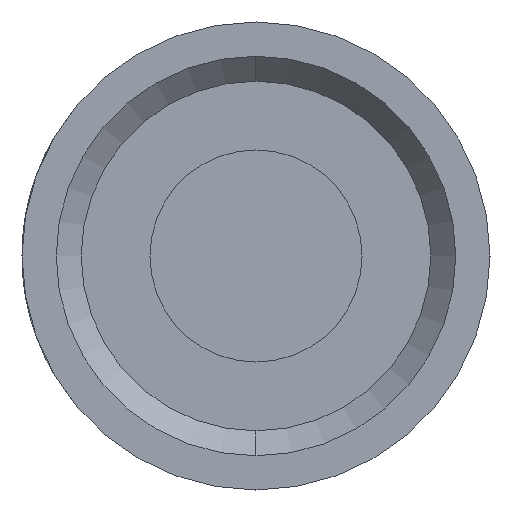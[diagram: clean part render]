
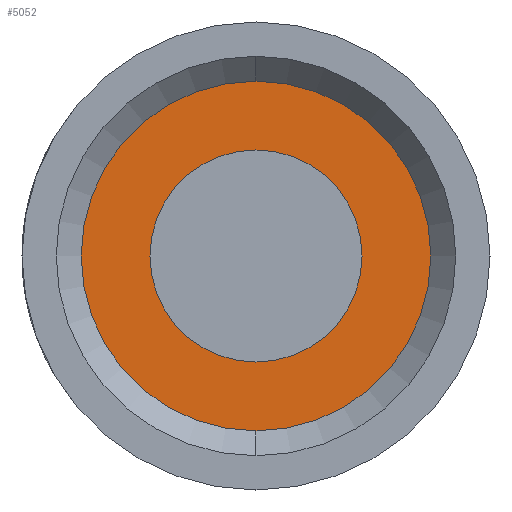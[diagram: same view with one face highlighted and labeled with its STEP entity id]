
A CAD part, left-side view. The second image highlights one B-rep face of the part: STEP entity #5052.
In plain terms, the highlighted planar face has unit normal (-1, 0, 0).
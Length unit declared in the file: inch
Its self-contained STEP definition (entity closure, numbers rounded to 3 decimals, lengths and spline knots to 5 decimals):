
#205 = ORIENTED_EDGE ( 'NONE', *, *, #10903, .F. ) ;
#1022 = EDGE_LOOP ( 'NONE', ( #2626, #6487 ) ) ;
#1437 = AXIS2_PLACEMENT_3D ( 'NONE', #8715, #10873, #2243 ) ;
#1916 = EDGE_CURVE ( 'NONE', #5363, #3442, #4844, .T. ) ;
#2231 = CIRCLE ( 'NONE', #1437, 0.04245 ) ;
#2243 = DIRECTION ( 'NONE',  ( 0., 0., 1. ) ) ;
#2534 = FACE_OUTER_BOUND ( 'NONE', #1022, .T. ) ;
#2626 = ORIENTED_EDGE ( 'NONE', *, *, #1916, .T. ) ;
#2631 = CARTESIAN_POINT ( 'NONE',  ( -0.465, 0.07, 0. ) ) ;
#2664 = DIRECTION ( 'NONE',  ( -1., 0., 0. ) ) ;
#2787 = DIRECTION ( 'NONE',  ( 0., 0., 1. ) ) ;
#3442 = VERTEX_POINT ( 'NONE', #10090 ) ;
#3499 = VERTEX_POINT ( 'NONE', #5950 ) ;
#3527 = AXIS2_PLACEMENT_3D ( 'NONE', #8065, #2664, #9084 ) ;
#4106 = EDGE_CURVE ( 'NONE', #3442, #5363, #8755, .T. ) ;
#4756 = CARTESIAN_POINT ( 'NONE',  ( -0.465, 0., 0. ) ) ;
#4844 = CIRCLE ( 'NONE', #8172, 0.07 ) ;
#5022 = EDGE_LOOP ( 'NONE', ( #205, #5232 ) ) ;
#5052 = ADVANCED_FACE ( 'NONE', ( #12650, #2534 ), #5723, .F. ) ;
#5232 = ORIENTED_EDGE ( 'NONE', *, *, #8747, .F. ) ;
#5363 = VERTEX_POINT ( 'NONE', #13736 ) ;
#5611 = CIRCLE ( 'NONE', #5904, 0.04245 ) ;
#5723 = PLANE ( 'NONE',  #13291 ) ;
#5767 = DIRECTION ( 'NONE',  ( 0., 0., -1. ) ) ;
#5904 = AXIS2_PLACEMENT_3D ( 'NONE', #4756, #12195, #2787 ) ;
#5950 = CARTESIAN_POINT ( 'NONE',  ( -0.465, 0., 0.04245 ) ) ;
#6487 = ORIENTED_EDGE ( 'NONE', *, *, #4106, .T. ) ;
#6790 = DIRECTION ( 'NONE',  ( 1., 0., 0. ) ) ;
#6937 = DIRECTION ( 'NONE',  ( 0., 0., 1. ) ) ;
#8065 = CARTESIAN_POINT ( 'NONE',  ( -0.465, 0., 0. ) ) ;
#8172 = AXIS2_PLACEMENT_3D ( 'NONE', #11202, #11288, #6937 ) ;
#8715 = CARTESIAN_POINT ( 'NONE',  ( -0.465, 0., 0. ) ) ;
#8747 = EDGE_CURVE ( 'NONE', #13509, #3499, #2231, .T. ) ;
#8755 = CIRCLE ( 'NONE', #3527, 0.07 ) ;
#9084 = DIRECTION ( 'NONE',  ( 0., 0., 1. ) ) ;
#10090 = CARTESIAN_POINT ( 'NONE',  ( -0.465, 0., -0.07 ) ) ;
#10873 = DIRECTION ( 'NONE',  ( -1., 0., 0. ) ) ;
#10903 = EDGE_CURVE ( 'NONE', #3499, #13509, #5611, .T. ) ;
#11202 = CARTESIAN_POINT ( 'NONE',  ( -0.465, 0., 0. ) ) ;
#11288 = DIRECTION ( 'NONE',  ( -1., 0., 0. ) ) ;
#11579 = CARTESIAN_POINT ( 'NONE',  ( -0.465, 0., -0.04245 ) ) ;
#12195 = DIRECTION ( 'NONE',  ( -1., 0., 0. ) ) ;
#12650 = FACE_BOUND ( 'NONE', #5022, .T. ) ;
#13291 = AXIS2_PLACEMENT_3D ( 'NONE', #2631, #6790, #5767 ) ;
#13509 = VERTEX_POINT ( 'NONE', #11579 ) ;
#13736 = CARTESIAN_POINT ( 'NONE',  ( -0.465, 0., 0.07 ) ) ;
